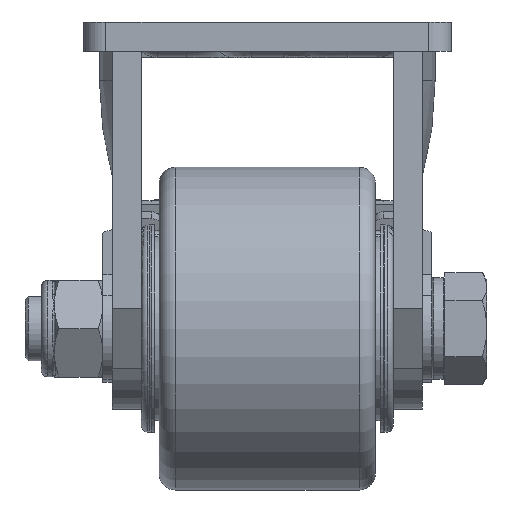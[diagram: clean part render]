
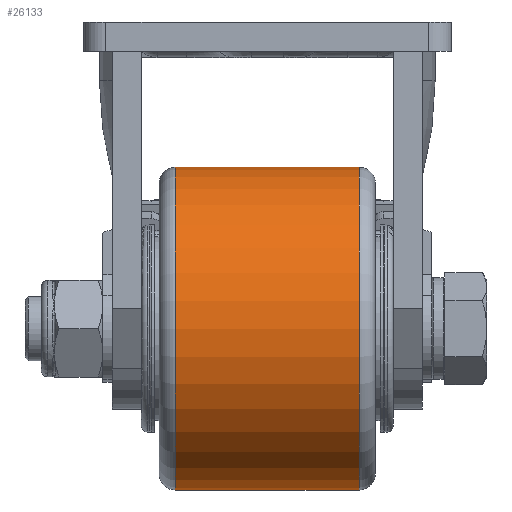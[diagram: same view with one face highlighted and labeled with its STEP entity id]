
A CAD part, left-side view. The second image highlights one B-rep face of the part: STEP entity #26133.
In plain terms, the highlighted cylindrical face has radius 50 mm (diameter 100 mm), a full revolution.
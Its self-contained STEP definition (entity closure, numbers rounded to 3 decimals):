
#6225=CYLINDRICAL_SURFACE('',#27766,50.);
#6635=FACE_BOUND('',#8465,.T.);
#6859=FACE_OUTER_BOUND('',#8464,.T.);
#8464=EDGE_LOOP('',(#17941));
#8465=EDGE_LOOP('',(#17942));
#10290=CIRCLE('',#27764,50.);
#10292=CIRCLE('',#27767,50.);
#11252=VERTEX_POINT('',#36277);
#11254=VERTEX_POINT('',#36282);
#13889=EDGE_CURVE('',#11252,#11252,#10290,.T.);
#13891=EDGE_CURVE('',#11254,#11254,#10292,.T.);
#17941=ORIENTED_EDGE('',*,*,#13889,.T.);
#17942=ORIENTED_EDGE('',*,*,#13891,.F.);
#26133=ADVANCED_FACE('',(#6859,#6635),#6225,.T.);
#27764=AXIS2_PLACEMENT_3D('',#36278,#29937,#29938);
#27766=AXIS2_PLACEMENT_3D('',#36281,#29941,#29942);
#27767=AXIS2_PLACEMENT_3D('',#36283,#29943,#29944);
#29937=DIRECTION('center_axis',(0.,1.,0.));
#29938=DIRECTION('ref_axis',(1.,0.,0.));
#29941=DIRECTION('center_axis',(0.,1.,0.));
#29942=DIRECTION('ref_axis',(0.,0.,
-1.));
#29943=DIRECTION('center_axis',(0.,1.,0.));
#29944=DIRECTION('ref_axis',(1.,0.,0.));
#36277=CARTESIAN_POINT('',(-1.,-28.5,-140.5));
#36278=CARTESIAN_POINT('Origin',(-1.,-28.5,-90.5));
#36281=CARTESIAN_POINT('Origin',(-1.,0.,
-90.5));
#36282=CARTESIAN_POINT('',(-1.,28.5,-140.5));
#36283=CARTESIAN_POINT('Origin',(-1.,28.5,-90.5));
